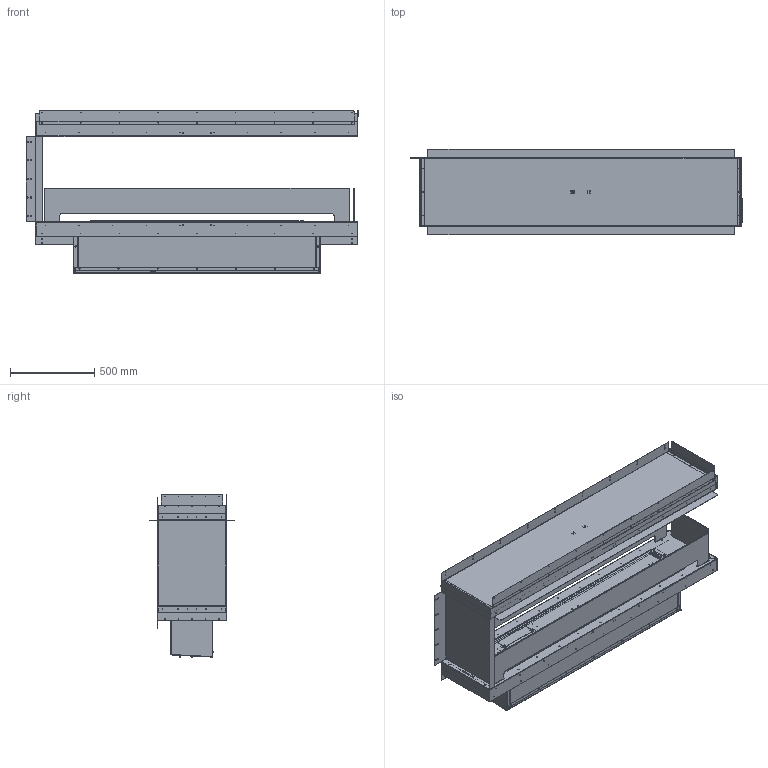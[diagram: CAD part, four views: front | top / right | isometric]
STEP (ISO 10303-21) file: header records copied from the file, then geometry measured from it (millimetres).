
FILE_DESCRIPTION (( 'STEP AP214' ), '1' );
FILE_NAME ('3d_Forma_1800_Room_Divider_FLA3.STEP', '2022-05-30T12:10:12', ( '' ), ( '' ), 'SwSTEP 2.0', 'SolidWorks 2019', '' );
FILE_SCHEMA (( 'AUTOMOTIVE_DESIGN' ));
Length unit declared in the file: millimetre
Products named in the file (51): 000-042-826_000-042-826-1490; B-003-091_B-003-091-1490; 000-049-326_000-049-326-1490; 000-056-473_000-056-473_72; ok1271-08; 000060275_000060275_72DSP; hex tapping screws_iso_Tapping Screw ISO 14585 - ST4.2 x 9.5-C-N; 000056880_000056880_72; B-003-087_B-003-087-1490; 000057657_000057657_72; 000057660; 000064025; B-000-460; 000-049-813; 000064026; 000060281_000060281_72DSP; B-000-472; 000-056-474_000-056-474_72; 024-324-324; B-003-090; B-003-094; 000-049-267_000-049-267-1490; 000-046-432; Ko³ek gwintowany do zgrzewania_ISO 13918 M4x10; 000060313; 000111128; 000-056-480_000-056-480_72; 000056915; 000059948_000059948-1490; 000060280_000060280_72; 000100551; KEYSTONE 5228; 000-056-471; 000-050-969_000-050-969-1490; 000061618_000061618_72; 000060277_000060277_72; Nakrêtka wciskana_Sariv S-S M3-3; 000059955; 000057747_000057747_72; PZ-FLA3XT-0003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
Assembly tree (99 placements, depth 4):
  3d_Forma_1800_Room_Divider_FLA3
    000061618_000061618_72
      000-056-480_000-056-480_72
        000-056-473_000-056-473_72
        000-056-474_000-056-474_72
      000057657_000057657_72
      000057659_000057659_72
      000057660
    000-056-471
    000056880_000056880_72
    000056915
    000057000_000057000_72  x2
    000057747_000057747_72  x2
    000060281_000060281_72DSP
      000060275_000060275_72DSP
      000060277_000060277_72
      000060280_000060280_72
      000060313  x2
      000069177  x2
    000059785_000059785-1490 WW
      000-049-267_000-049-267-1490
        000-049-266_000-049-266-1490
        Ko³ek gwintowany do zgrzewania_ISO 13918 M4x10  x22
        Nakrêtka wciskana_Sariv S-S M3-3  x4
      000-050-969_000-050-969-1490  x2
      000059948_000059948-1490  x2
      000-049-326_000-049-326-1490
      000-042-826_000-042-826-1490  x2
      000-049-813
        024-324-324
        Ko³ek gwintowany do zgrzewania_ISO 13918 M4x10  x2
      ok1585_ok1585-1490
        B-003-087_B-003-087-1490
        B-003-090  x2
        B-000-460  x4
        B-003-091_B-003-091-1490
        B-003-094  x2
        B-000-462  x5
        B-000-472
        000-051-004
      000059955
      PZ-FLA3XT-0003
      ok1586
      hex tapping screws_iso_Tapping Screw ISO 14585 - ST4.2 x 9.5-C-N  x2
      000059906
      000-046-432  x4
      ok1271-08  x4
      KEYSTONE 5228
      000064025
      000064026
      000100551
    000111128
Bounding box: 1971 x 506 x 964.71 mm (x, y, z)
Volume: 14671713.1 mm3; surface area: 16446273.2 mm2
Topology: 105 solids, 105 shells, 4048 faces, 10594 edges, 6799 vertices
Faces by surface type: cylinder 2293, plane 1474, cone 188, torus 48, bspline 41, sphere 4
Entity records: 112024 total; most frequent: CARTESIAN_POINT 23744, DIRECTION 18798, ORIENTED_EDGE 17096, EDGE_CURVE 8548, AXIS2_PLACEMENT_3D 7142, VERTEX_POINT 5508, EDGE_LOOP 4590, LINE 4514
